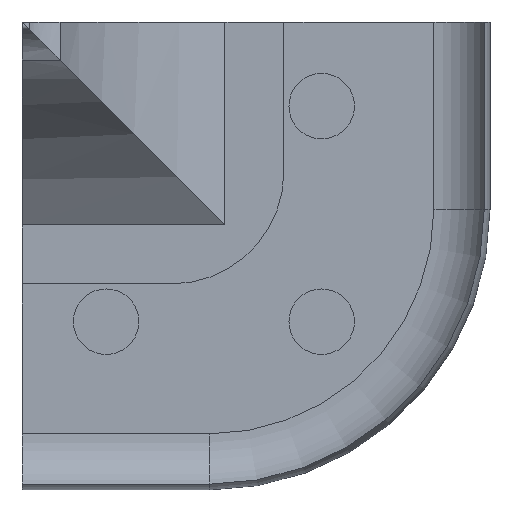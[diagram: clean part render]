
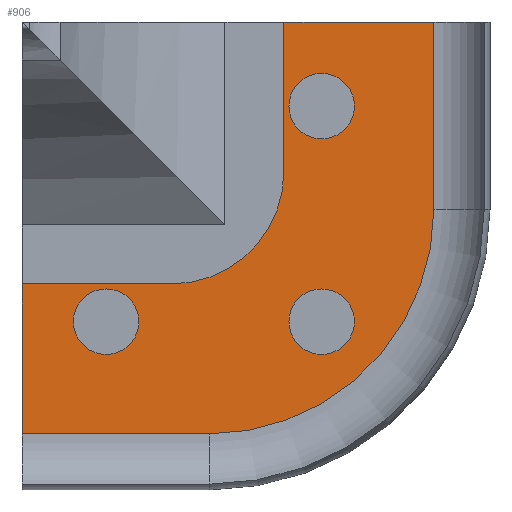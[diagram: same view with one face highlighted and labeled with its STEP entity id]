
A CAD part, front view. The second image highlights one B-rep face of the part: STEP entity #906.
In plain terms, the highlighted planar face has unit normal (0, -1, 0).
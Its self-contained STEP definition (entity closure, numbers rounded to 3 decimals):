
#19 = CIRCLE ( 'NONE', #497, 1.75 ) ;
#45 = LINE ( 'NONE', #926, #1159 ) ;
#50 = CIRCLE ( 'NONE', #1414, 1.75 ) ;
#68 = ORIENTED_EDGE ( 'NONE', *, *, #1283, .F. ) ;
#73 = EDGE_CURVE ( 'NONE', #1206, #740, #269, .T. ) ;
#114 = VECTOR ( 'NONE', #1617, 1000. ) ;
#158 = EDGE_LOOP ( 'NONE', ( #1660 ) ) ;
#171 = EDGE_CURVE ( 'NONE', #1406, #740, #996, .T. ) ;
#217 = CIRCLE ( 'NONE', #1735, 1.75 ) ;
#226 = VERTEX_POINT ( 'NONE', #1435 ) ;
#236 = VERTEX_POINT ( 'NONE', #1031 ) ;
#259 = CARTESIAN_POINT ( 'NONE',  ( -17., 0., -8. ) ) ;
#269 = LINE ( 'NONE', #1009, #114 ) ;
#280 = AXIS2_PLACEMENT_3D ( 'NONE', #1618, #1317, #1633 ) ;
#299 = FACE_BOUND ( 'NONE', #1687, .T. ) ;
#323 = DIRECTION ( 'NONE',  ( 0., 0., 1. ) ) ;
#406 = DIRECTION ( 'NONE',  ( 0., 0., 1. ) ) ;
#444 = CARTESIAN_POINT ( 'NONE',  ( -20.5, 0., -16.02 ) ) ;
#460 = VERTEX_POINT ( 'NONE', #1783 ) ;
#462 = CARTESIAN_POINT ( 'NONE',  ( -8.98, 0., -16.02 ) ) ;
#497 = AXIS2_PLACEMENT_3D ( 'NONE', #514, #524, #1115 ) ;
#514 = CARTESIAN_POINT ( 'NONE',  ( -8.98, 0., -4.5 ) ) ;
#524 = DIRECTION ( 'NONE',  ( 0., 1., 0. ) ) ;
#575 = EDGE_CURVE ( 'NONE', #460, #1365, #45, .T. ) ;
#585 = FACE_BOUND ( 'NONE', #158, .T. ) ;
#611 = DIRECTION ( 'NONE',  ( 0., 1., 0. ) ) ;
#622 = ORIENTED_EDGE ( 'NONE', *, *, #1770, .F. ) ;
#631 = DIRECTION ( 'NONE',  ( 0., 0., 1. ) ) ;
#641 = VERTEX_POINT ( 'NONE', #789 ) ;
#646 = CARTESIAN_POINT ( 'NONE',  ( -15., 0., -22.016 ) ) ;
#648 = EDGE_LOOP ( 'NONE', ( #1251 ) ) ;
#688 = LINE ( 'NONE', #646, #1292 ) ;
#708 = DIRECTION ( 'NONE',  ( 0., 1., 0. ) ) ;
#711 = ORIENTED_EDGE ( 'NONE', *, *, #171, .F. ) ;
#731 = FACE_OUTER_BOUND ( 'NONE', #1282, .T. ) ;
#738 = CARTESIAN_POINT ( 'NONE',  ( -7.5, 0., 0. ) ) ;
#740 = VERTEX_POINT ( 'NONE', #1439 ) ;
#751 = CIRCLE ( 'NONE', #1356, 12.016 ) ;
#789 = CARTESIAN_POINT ( 'NONE',  ( -25., 0., -22.016 ) ) ;
#796 = ORIENTED_EDGE ( 'NONE', *, *, #1849, .F. ) ;
#798 = CARTESIAN_POINT ( 'NONE',  ( -25., 0., -14. ) ) ;
#869 = EDGE_CURVE ( 'NONE', #226, #226, #50, .T. ) ;
#906 = ADVANCED_FACE ( 'NONE', ( #299, #585, #1474, #731 ), #1505, .F. ) ;
#926 = CARTESIAN_POINT ( 'NONE',  ( -17., 0., -14. ) ) ;
#996 = LINE ( 'NONE', #738, #1760 ) ;
#1009 = CARTESIAN_POINT ( 'NONE',  ( -2.984, 0., -10. ) ) ;
#1031 = CARTESIAN_POINT ( 'NONE',  ( -8.98, 0., -14.27 ) ) ;
#1054 = DIRECTION ( 'NONE',  ( 0., 1., 0. ) ) ;
#1099 = AXIS2_PLACEMENT_3D ( 'NONE', #259, #708, #1315 ) ;
#1100 = CARTESIAN_POINT ( 'NONE',  ( -11., 0., 0. ) ) ;
#1115 = DIRECTION ( 'NONE',  ( 0., 0., 1. ) ) ;
#1134 = VERTEX_POINT ( 'NONE', #1591 ) ;
#1159 = VECTOR ( 'NONE', #1490, 1000. ) ;
#1197 = DIRECTION ( 'NONE',  ( 0., 1., 0. ) ) ;
#1206 = VERTEX_POINT ( 'NONE', #1210 ) ;
#1210 = CARTESIAN_POINT ( 'NONE',  ( -2.984, 0., -10. ) ) ;
#1220 = ORIENTED_EDGE ( 'NONE', *, *, #1675, .T. ) ;
#1238 = VERTEX_POINT ( 'NONE', #1655 ) ;
#1251 = ORIENTED_EDGE ( 'NONE', *, *, #1515, .T. ) ;
#1261 = DIRECTION ( 'NONE',  ( -1., 0., 0. ) ) ;
#1282 = EDGE_LOOP ( 'NONE', ( #711, #622, #1220, #1644, #68, #1413, #796, #1295 ) ) ;
#1283 = EDGE_CURVE ( 'NONE', #641, #1365, #1549, .T. ) ;
#1292 = VECTOR ( 'NONE', #1261, 1000. ) ;
#1295 = ORIENTED_EDGE ( 'NONE', *, *, #73, .T. ) ;
#1315 = DIRECTION ( 'NONE',  ( 0., 0., 1. ) ) ;
#1317 = DIRECTION ( 'NONE',  ( 0., 1., 0. ) ) ;
#1342 = LINE ( 'NONE', #1458, #1611 ) ;
#1355 = ORIENTED_EDGE ( 'NONE', *, *, #869, .T. ) ;
#1356 = AXIS2_PLACEMENT_3D ( 'NONE', #1650, #611, #323 ) ;
#1365 = VERTEX_POINT ( 'NONE', #798 ) ;
#1406 = VERTEX_POINT ( 'NONE', #1100 ) ;
#1413 = ORIENTED_EDGE ( 'NONE', *, *, #1948, .F. ) ;
#1414 = AXIS2_PLACEMENT_3D ( 'NONE', #444, #1197, #1801 ) ;
#1435 = CARTESIAN_POINT ( 'NONE',  ( -20.5, 0., -14.27 ) ) ;
#1439 = CARTESIAN_POINT ( 'NONE',  ( -2.984, 0., 0. ) ) ;
#1458 = CARTESIAN_POINT ( 'NONE',  ( -11., 0., -8. ) ) ;
#1474 = FACE_BOUND ( 'NONE', #648, .T. ) ;
#1490 = DIRECTION ( 'NONE',  ( -1., 0., 0. ) ) ;
#1505 = PLANE ( 'NONE',  #280 ) ;
#1515 = EDGE_CURVE ( 'NONE', #1134, #1134, #19, .T. ) ;
#1549 = LINE ( 'NONE', #1804, #1821 ) ;
#1591 = CARTESIAN_POINT ( 'NONE',  ( -8.98, 0., -2.75 ) ) ;
#1605 = DIRECTION ( 'NONE',  ( 1., 0., 0. ) ) ;
#1611 = VECTOR ( 'NONE', #406, 1000. ) ;
#1617 = DIRECTION ( 'NONE',  ( 0., 0., 1. ) ) ;
#1618 = CARTESIAN_POINT ( 'NONE',  ( -17., 0., -8. ) ) ;
#1633 = DIRECTION ( 'NONE',  ( 0., 0., 1. ) ) ;
#1644 = ORIENTED_EDGE ( 'NONE', *, *, #575, .T. ) ;
#1650 = CARTESIAN_POINT ( 'NONE',  ( -15., 0., -10. ) ) ;
#1655 = CARTESIAN_POINT ( 'NONE',  ( -11., 0., -8. ) ) ;
#1660 = ORIENTED_EDGE ( 'NONE', *, *, #1691, .T. ) ;
#1668 = CIRCLE ( 'NONE', #1099, 6. ) ;
#1675 = EDGE_CURVE ( 'NONE', #1238, #460, #1668, .T. ) ;
#1687 = EDGE_LOOP ( 'NONE', ( #1355 ) ) ;
#1691 = EDGE_CURVE ( 'NONE', #236, #236, #217, .T. ) ;
#1735 = AXIS2_PLACEMENT_3D ( 'NONE', #462, #1054, #631 ) ;
#1740 = CARTESIAN_POINT ( 'NONE',  ( -15., 0., -22.016 ) ) ;
#1760 = VECTOR ( 'NONE', #1605, 1000. ) ;
#1770 = EDGE_CURVE ( 'NONE', #1238, #1406, #1342, .T. ) ;
#1783 = CARTESIAN_POINT ( 'NONE',  ( -17., 0., -14. ) ) ;
#1801 = DIRECTION ( 'NONE',  ( 0., 0., 1. ) ) ;
#1804 = CARTESIAN_POINT ( 'NONE',  ( -25., 0., -23. ) ) ;
#1821 = VECTOR ( 'NONE', #1953, 1000. ) ;
#1849 = EDGE_CURVE ( 'NONE', #1206, #1904, #751, .T. ) ;
#1904 = VERTEX_POINT ( 'NONE', #1740 ) ;
#1948 = EDGE_CURVE ( 'NONE', #1904, #641, #688, .T. ) ;
#1953 = DIRECTION ( 'NONE',  ( 0., 0., 1. ) ) ;
